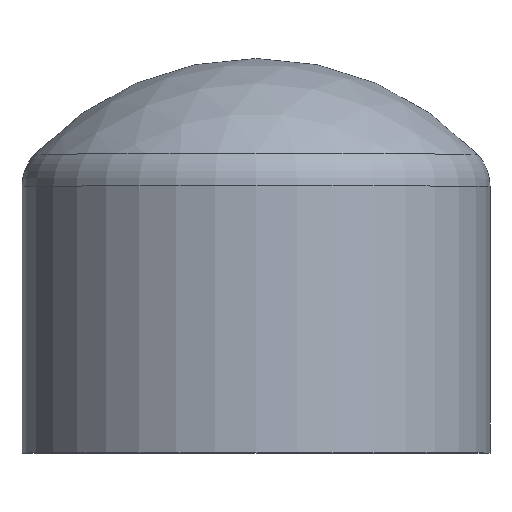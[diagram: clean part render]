
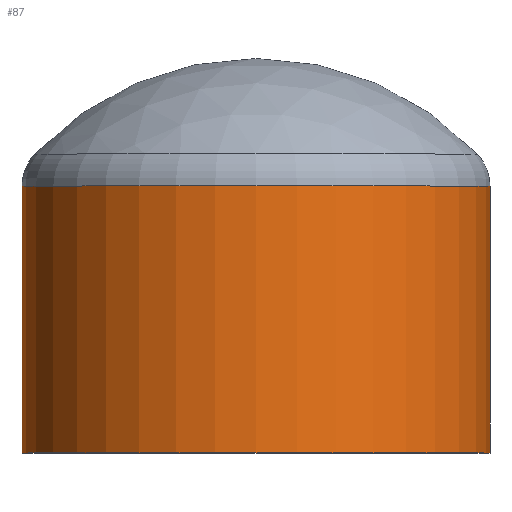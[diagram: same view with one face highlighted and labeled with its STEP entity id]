
A CAD part, top view. The second image highlights one B-rep face of the part: STEP entity #87.
In plain terms, the highlighted cylindrical face has radius 25.5 mm (diameter 51 mm), a full revolution.
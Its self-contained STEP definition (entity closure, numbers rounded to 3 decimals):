
#20=CYLINDRICAL_SURFACE('',#98,25.5);
#23=FACE_BOUND('',#37,.T.);
#28=FACE_OUTER_BOUND('',#36,.T.);
#36=EDGE_LOOP('',(#71));
#37=EDGE_LOOP('',(#72));
#46=CIRCLE('',#96,25.5);
#48=CIRCLE('',#99,25.5);
#53=VERTEX_POINT('',#138);
#55=VERTEX_POINT('',#143);
#61=EDGE_CURVE('',#53,#53,#46,.T.);
#63=EDGE_CURVE('',#55,#55,#48,.T.);
#71=ORIENTED_EDGE('',*,*,#63,.T.);
#72=ORIENTED_EDGE('',*,*,#61,.F.);
#87=ADVANCED_FACE('',(#28,#23),#20,.T.);
#96=AXIS2_PLACEMENT_3D('',#139,#112,#113);
#98=AXIS2_PLACEMENT_3D('',#142,#116,#117);
#99=AXIS2_PLACEMENT_3D('',#144,#118,#119);
#112=DIRECTION('center_axis',(0.,1.,0.));
#113=DIRECTION('ref_axis',(1.,0.,0.));
#116=DIRECTION('center_axis',(0.,1.,0.));
#117=DIRECTION('ref_axis',(-1.,0.,0.));
#118=DIRECTION('center_axis',(0.,1.,0.));
#119=DIRECTION('ref_axis',(1.,0.,0.));
#138=CARTESIAN_POINT('',(-25.5,29.076,0.));
#139=CARTESIAN_POINT('Origin',(0.,29.076,0.));
#142=CARTESIAN_POINT('Origin',(0.,15.5,0.));
#143=CARTESIAN_POINT('',(-25.5,0.,0.));
#144=CARTESIAN_POINT('Origin',(0.,0.,0.));
